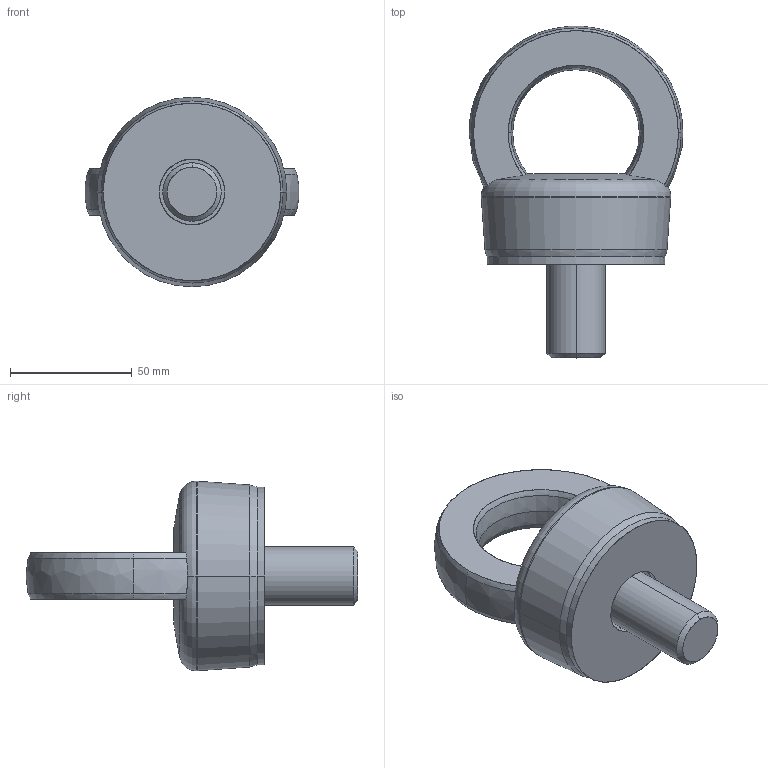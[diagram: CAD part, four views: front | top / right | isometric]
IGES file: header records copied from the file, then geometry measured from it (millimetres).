
Start section: START RECORD GO HERE.
Global section: file name: C817X24.igs; native system: DASSAULT SYSTEMES CATIA V5 R20 - www.3ds.com; preprocessor: CATIA Version 5 Release 20 ; author: r.borello; organization: CFTORINO; date: 20190701.091923; units: millimetre
Bounding box: 87.81 x 136.5 x 77.92 mm (x, y, z)
Surface area: 36819 mm2 (no closed solid volume)
Topology: 0 solids, 0 shells, 62 faces, 294 edges, 294 vertices
Faces by surface type: revolution 47, extrusion 15
